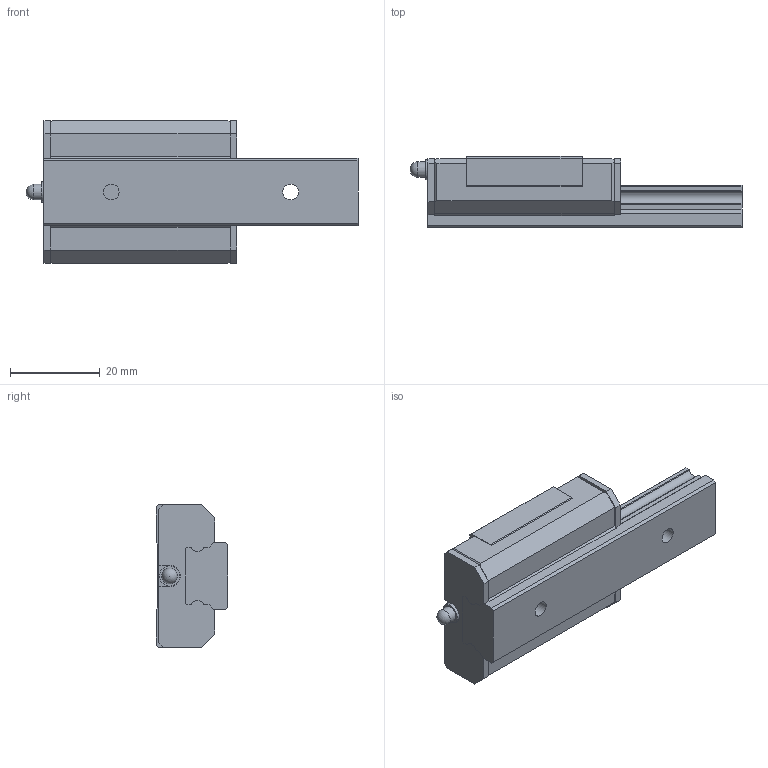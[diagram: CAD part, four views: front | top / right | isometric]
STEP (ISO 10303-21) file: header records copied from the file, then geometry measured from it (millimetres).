
FILE_DESCRIPTION(/* description */ ('STEP AP203'),/* implementation_level */ '2;1');
FILE_NAME(/* name */ 'SRS15GMSS-70LM_G15_0_PB107_0_0_0_0_1',/* time_stamp */ '2024-05-17T10:24:32+02:00',/* author */ ('License CC BY-ND 4.0'),/* organization */ ('CADENAS'),/* preprocessor_version */ 'ST-DEVELOPER v19.3',/* originating_system */ 'PARTsolutions',/* authorisation */ ' ');
FILE_SCHEMA (('CONFIG_CONTROL_DESIGN'));
Length unit declared in the file: millimetre
Products named in the file (4): SRS15GMSS-70LM_G15_0_PB107_0_0_0_0_1; SRS15GM7015 Track; SRS15GMSSPB1071 Slider; PB107-SRS Grease Nipple Joint
Assembly tree (3 placements, depth 2):
  SRS15GMSS-70LM_G15_0_PB107_0_0_0_0_1
    SRS15GM7015 Track
    SRS15GMSSPB1071 Slider
    PB107-SRS Grease Nipple Joint
Bounding box: 74 x 16 x 32 mm (x, y, z)
Volume: 21769.2 mm3; surface area: 9122.7 mm2
Topology: 3 solids, 3 shells, 141 faces, 370 edges, 240 vertices
Faces by surface type: plane 103, cylinder 29, cone 8, sphere 1
Full cylindrical faces by diameter (mm): 2.459 x4, 3 x3, 3.5 x3, 4.5 x1, 6 x2
Entity records: 4211 total; most frequent: CARTESIAN_POINT 717, DIRECTION 690, ORIENTED_EDGE 676, EDGE_CURVE 338, LINE 276, VECTOR 276, VERTEX_POINT 234, AXIS2_PLACEMENT_3D 207
